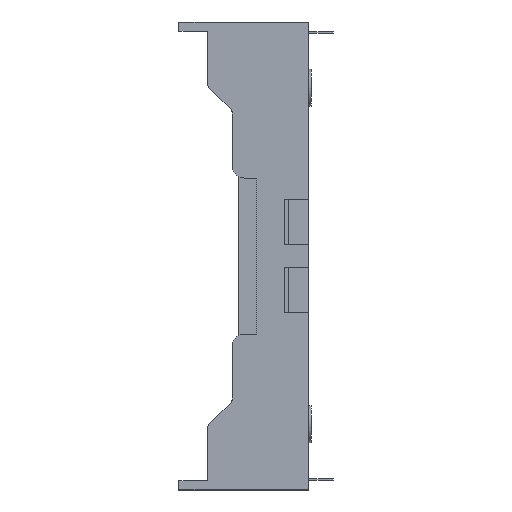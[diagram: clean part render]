
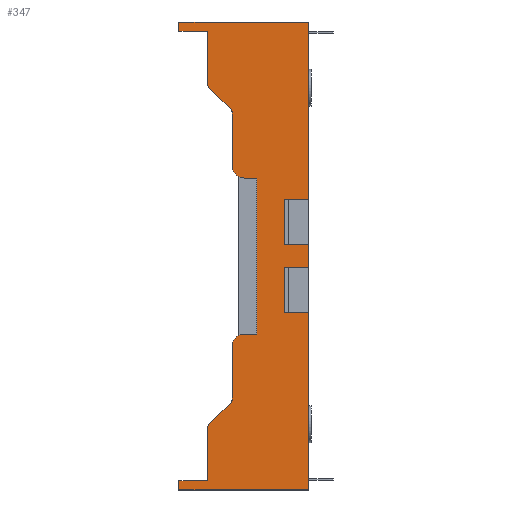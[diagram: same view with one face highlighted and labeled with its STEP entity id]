
A CAD part, left-side view. The second image highlights one B-rep face of the part: STEP entity #347.
In plain terms, the highlighted planar face has unit normal (-1, 0, 0).
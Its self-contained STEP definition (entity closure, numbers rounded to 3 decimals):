
#347=ADVANCED_FACE('',(#1875),#1877,.T.);
#1875=FACE_BOUND('',#1876,.T.);
#1876=EDGE_LOOP('',(#3636,#3637,#3638,#3639,#3640,#3641,#3642,#3643,#3644,#3645,
#3646,#3647,#3648,#3649,#3650,#3651,#3652,#3653,#3654,#3655,#3656,#3657,#3658,#3659,
#3660,#3661,#3662,#3663,#3664,#3665));
#1877=PLANE('',#1878);
#1878=AXIS2_PLACEMENT_3D('',#1879,#1880,#1881);
#1879=CARTESIAN_POINT('',(0.,16.5,0.));
#1880=DIRECTION('',(-1.,0.,0.));
#1881=DIRECTION('',(0.,-1.,0.));
#3636=ORIENTED_EDGE('',*,*,#4477,.T.);
#3637=ORIENTED_EDGE('',*,*,#4590,.T.);
#3638=ORIENTED_EDGE('',*,*,#4332,.T.);
#3639=ORIENTED_EDGE('',*,*,#4480,.T.);
#3640=ORIENTED_EDGE('',*,*,#4482,.T.);
#3641=ORIENTED_EDGE('',*,*,#4589,.T.);
#3642=ORIENTED_EDGE('',*,*,#4753,.T.);
#3643=ORIENTED_EDGE('',*,*,#4778,.F.);
#3644=ORIENTED_EDGE('',*,*,#4755,.F.);
#3645=ORIENTED_EDGE('',*,*,#4795,.F.);
#3646=ORIENTED_EDGE('',*,*,#4796,.T.);
#3647=ORIENTED_EDGE('',*,*,#4797,.T.);
#3648=ORIENTED_EDGE('',*,*,#4798,.T.);
#3649=ORIENTED_EDGE('',*,*,#4799,.T.);
#3650=ORIENTED_EDGE('',*,*,#4800,.T.);
#3651=ORIENTED_EDGE('',*,*,#4801,.T.);
#3652=ORIENTED_EDGE('',*,*,#4802,.T.);
#3653=ORIENTED_EDGE('',*,*,#4803,.T.);
#3654=ORIENTED_EDGE('',*,*,#4804,.T.);
#3655=ORIENTED_EDGE('',*,*,#4805,.T.);
#3656=ORIENTED_EDGE('',*,*,#4806,.T.);
#3657=ORIENTED_EDGE('',*,*,#4807,.T.);
#3658=ORIENTED_EDGE('',*,*,#4808,.T.);
#3659=ORIENTED_EDGE('',*,*,#4809,.F.);
#3660=ORIENTED_EDGE('',*,*,#4690,.T.);
#3661=ORIENTED_EDGE('',*,*,#4719,.F.);
#3662=ORIENTED_EDGE('',*,*,#4691,.F.);
#3663=ORIENTED_EDGE('',*,*,#4591,.T.);
#3664=ORIENTED_EDGE('',*,*,#4337,.T.);
#3665=ORIENTED_EDGE('',*,*,#4473,.T.);
#4332=EDGE_CURVE('',#5175,#5173,#5176,.T.);
#4337=EDGE_CURVE('',#5185,#5183,#5186,.T.);
#4473=EDGE_CURVE('',#5183,#5423,#5425,.T.);
#4477=EDGE_CURVE('',#5423,#5429,#5431,.T.);
#4480=EDGE_CURVE('',#5173,#5433,#5435,.T.);
#4482=EDGE_CURVE('',#5433,#5436,#5438,.T.);
#4589=EDGE_CURVE('',#5436,#5630,#5632,.T.);
#4590=EDGE_CURVE('',#5429,#5175,#5633,.T.);
#4591=EDGE_CURVE('',#5634,#5185,#5635,.T.);
#4690=EDGE_CURVE('',#5763,#5804,#5806,.T.);
#4691=EDGE_CURVE('',#5634,#5807,#5808,.T.);
#4719=EDGE_CURVE('',#5807,#5804,#5848,.T.);
#4753=EDGE_CURVE('',#5630,#5897,#5899,.T.);
#4755=EDGE_CURVE('',#5901,#5903,#5904,.T.);
#4778=EDGE_CURVE('',#5903,#5897,#5944,.T.);
#4795=EDGE_CURVE('',#5973,#5901,#5974,.T.);
#4796=EDGE_CURVE('',#5973,#5975,#5976,.T.);
#4797=EDGE_CURVE('',#5975,#5977,#5978,.T.);
#4798=EDGE_CURVE('',#5977,#5979,#5980,.T.);
#4799=EDGE_CURVE('',#5979,#5981,#5982,.T.);
#4800=EDGE_CURVE('',#5981,#5983,#5984,.T.);
#4801=EDGE_CURVE('',#5983,#5985,#5986,.T.);
#4802=EDGE_CURVE('',#5985,#5987,#5988,.T.);
#4803=EDGE_CURVE('',#5987,#5989,#5990,.T.);
#4804=EDGE_CURVE('',#5989,#5991,#5992,.T.);
#4805=EDGE_CURVE('',#5991,#5993,#5994,.T.);
#4806=EDGE_CURVE('',#5993,#5995,#5996,.T.);
#4807=EDGE_CURVE('',#5995,#5997,#5998,.T.);
#4808=EDGE_CURVE('',#5997,#5999,#6000,.T.);
#4809=EDGE_CURVE('',#5763,#5999,#6001,.T.);
#5173=VERTEX_POINT('',#6666);
#5175=VERTEX_POINT('',#6670);
#5176=LINE('',#6671,#6672);
#5183=VERTEX_POINT('',#6687);
#5185=VERTEX_POINT('',#6691);
#5186=LINE('',#6692,#6693);
#5423=VERTEX_POINT('',#7229);
#5425=LINE('',#7233,#7234);
#5429=VERTEX_POINT('',#7243);
#5431=LINE('',#7247,#7248);
#5433=VERTEX_POINT('',#7253);
#5435=LINE('',#7257,#7258);
#5436=VERTEX_POINT('',#7260);
#5438=LINE('',#7264,#7265);
#5630=VERTEX_POINT('',#7682);
#5632=LINE('',#7686,#7687);
#5633=LINE('',#7689,#7690);
#5634=VERTEX_POINT('',#7692);
#5635=LINE('',#7693,#7694);
#5763=VERTEX_POINT('',#7989);
#5804=VERTEX_POINT('',#8074);
#5806=LINE('',#8078,#8079);
#5807=VERTEX_POINT('',#8081);
#5808=LINE('',#8082,#8083);
#5848=LINE('',#8178,#8179);
#5897=VERTEX_POINT('',#8293);
#5899=LINE('',#8297,#8298);
#5901=VERTEX_POINT('',#8301);
#5903=VERTEX_POINT('',#8305);
#5904=LINE('',#8306,#8307);
#5944=LINE('',#8392,#8393);
#5973=VERTEX_POINT('',#8455);
#5974=LINE('',#8456,#8457);
#5975=VERTEX_POINT('',#8459);
#5976=CIRCLE('',#8460,0.5);
#5977=VERTEX_POINT('',#8464);
#5978=LINE('',#8465,#8466);
#5979=VERTEX_POINT('',#8468);
#5980=CIRCLE('',#8469,0.5);
#5981=VERTEX_POINT('',#8473);
#5982=LINE('',#8474,#8475);
#5983=VERTEX_POINT('',#8477);
#5984=CIRCLE('',#8478,2.);
#5985=VERTEX_POINT('',#8482);
#5986=LINE('',#8483,#8484);
#5987=VERTEX_POINT('',#8486);
#5988=LINE('',#8487,#8488);
#5989=VERTEX_POINT('',#8490);
#5990=LINE('',#8491,#8492);
#5991=VERTEX_POINT('',#8494);
#5992=CIRCLE('',#8495,2.);
#5993=VERTEX_POINT('',#8499);
#5994=LINE('',#8500,#8501);
#5995=VERTEX_POINT('',#8503);
#5996=CIRCLE('',#8504,0.5);
#5997=VERTEX_POINT('',#8508);
#5998=LINE('',#8509,#8510);
#5999=VERTEX_POINT('',#8512);
#6000=CIRCLE('',#8513,0.5);
#6001=LINE('',#8517,#8518);
#6666=CARTESIAN_POINT('',(0.,4.,38.65));
#6670=CARTESIAN_POINT('',(0.,0.,38.65));
#6671=CARTESIAN_POINT('',(0.,0.,38.65));
#6672=VECTOR('',#6673,1.);
#6673=DIRECTION('',(0.,1.,0.));
#6687=CARTESIAN_POINT('',(0.,4.,27.45));
#6691=CARTESIAN_POINT('',(0.,0.,27.45));
#6692=CARTESIAN_POINT('',(0.,0.,27.45));
#6693=VECTOR('',#6694,1.);
#6694=DIRECTION('',(0.,1.,0.));
#7229=CARTESIAN_POINT('',(0.,4.,34.85));
#7233=CARTESIAN_POINT('',(0.,4.,27.45));
#7234=VECTOR('',#7235,1.);
#7235=DIRECTION('',(0.,0.,1.));
#7243=CARTESIAN_POINT('',(0.,0.,34.85));
#7247=CARTESIAN_POINT('',(0.,4.,34.85));
#7248=VECTOR('',#7249,1.);
#7249=DIRECTION('',(0.,-1.,0.));
#7253=CARTESIAN_POINT('',(0.,4.,46.05));
#7257=CARTESIAN_POINT('',(0.,4.,38.65));
#7258=VECTOR('',#7259,1.);
#7259=DIRECTION('',(0.,0.,1.));
#7260=CARTESIAN_POINT('',(0.,0.,46.05));
#7264=CARTESIAN_POINT('',(0.,4.,46.05));
#7265=VECTOR('',#7266,1.);
#7266=DIRECTION('',(0.,-1.,0.));
#7682=CARTESIAN_POINT('',(0.,0.,75.));
#7686=CARTESIAN_POINT('',(0.,0.,46.05));
#7687=VECTOR('',#7688,1.);
#7688=DIRECTION('',(0.,0.,1.));
#7689=CARTESIAN_POINT('',(0.,0.,34.85));
#7690=VECTOR('',#7691,1.);
#7691=DIRECTION('',(0.,0.,1.));
#7692=CARTESIAN_POINT('',(0.,0.,-1.5));
#7693=CARTESIAN_POINT('',(0.,0.,-1.5));
#7694=VECTOR('',#7695,1.);
#7695=DIRECTION('',(0.,0.,1.));
#7989=CARTESIAN_POINT('',(0.,16.5,0.));
#8074=CARTESIAN_POINT('',(0.,21.2,0.));
#8078=CARTESIAN_POINT('',(0.,16.5,0.));
#8079=VECTOR('',#8080,1.);
#8080=DIRECTION('',(0.,1.,0.));
#8081=CARTESIAN_POINT('',(0.,21.2,-1.5));
#8082=CARTESIAN_POINT('',(0.,0.,-1.5));
#8083=VECTOR('',#8084,1.);
#8084=DIRECTION('',(0.,1.,0.));
#8178=CARTESIAN_POINT('',(0.,21.2,-1.5));
#8179=VECTOR('',#8180,1.);
#8180=DIRECTION('',(0.,0.,1.));
#8293=CARTESIAN_POINT('',(0.,21.2,75.));
#8297=CARTESIAN_POINT('',(0.,0.,75.));
#8298=VECTOR('',#8299,1.);
#8299=DIRECTION('',(0.,1.,0.));
#8301=CARTESIAN_POINT('',(0.,16.5,73.5));
#8305=CARTESIAN_POINT('',(0.,21.2,73.5));
#8306=CARTESIAN_POINT('',(0.,16.5,73.5));
#8307=VECTOR('',#8308,1.);
#8308=DIRECTION('',(0.,1.,0.));
#8392=CARTESIAN_POINT('',(0.,21.2,73.5));
#8393=VECTOR('',#8394,1.);
#8394=DIRECTION('',(0.,0.,1.));
#8455=CARTESIAN_POINT('',(0.,16.5,64.707));
#8456=CARTESIAN_POINT('',(0.,16.5,64.707));
#8457=VECTOR('',#8458,1.);
#8458=DIRECTION('',(0.,0.,1.));
#8459=CARTESIAN_POINT('',(0.,16.354,64.354));
#8460=AXIS2_PLACEMENT_3D('',#8461,#8462,#8463);
#8461=CARTESIAN_POINT('',(0.,16.,64.707));
#8462=DIRECTION('',(-1.,0.,0.));
#8463=DIRECTION('',(0.,1.,0.));
#8464=CARTESIAN_POINT('',(0.,12.646,60.646));
#8465=CARTESIAN_POINT('',(0.,16.354,64.354));
#8466=VECTOR('',#8467,1.);
#8467=DIRECTION('',(0.,-0.707,-0.707));
#8468=CARTESIAN_POINT('',(0.,12.5,60.293));
#8469=AXIS2_PLACEMENT_3D('',#8470,#8471,#8472);
#8470=CARTESIAN_POINT('',(0.,13.,60.293));
#8471=DIRECTION('',(1.,0.,0.));
#8472=DIRECTION('',(0.,-0.707,0.707));
#8473=CARTESIAN_POINT('',(0.,12.5,51.5));
#8474=CARTESIAN_POINT('',(0.,12.5,60.293));
#8475=VECTOR('',#8476,1.);
#8476=DIRECTION('',(0.,0.,-1.));
#8477=CARTESIAN_POINT('',(0.,10.5,49.5));
#8478=AXIS2_PLACEMENT_3D('',#8479,#8480,#8481);
#8479=CARTESIAN_POINT('',(0.,10.5,51.5));
#8480=DIRECTION('',(-1.,0.,0.));
#8481=DIRECTION('',(0.,1.,0.));
#8482=CARTESIAN_POINT('',(0.,8.5,49.5));
#8483=CARTESIAN_POINT('',(0.,10.5,49.5));
#8484=VECTOR('',#8485,1.);
#8485=DIRECTION('',(0.,-1.,0.));
#8486=CARTESIAN_POINT('',(0.,8.5,24.));
#8487=CARTESIAN_POINT('',(0.,8.5,49.5));
#8488=VECTOR('',#8489,1.);
#8489=DIRECTION('',(0.,0.,-1.));
#8490=CARTESIAN_POINT('',(0.,10.5,24.));
#8491=CARTESIAN_POINT('',(0.,8.5,24.));
#8492=VECTOR('',#8493,1.);
#8493=DIRECTION('',(0.,1.,0.));
#8494=CARTESIAN_POINT('',(0.,12.5,22.));
#8495=AXIS2_PLACEMENT_3D('',#8496,#8497,#8498);
#8496=CARTESIAN_POINT('',(0.,10.5,22.));
#8497=DIRECTION('',(-1.,0.,0.));
#8498=DIRECTION('',(0.,0.,1.));
#8499=CARTESIAN_POINT('',(0.,12.5,13.207));
#8500=CARTESIAN_POINT('',(0.,12.5,22.));
#8501=VECTOR('',#8502,1.);
#8502=DIRECTION('',(0.,0.,-1.));
#8503=CARTESIAN_POINT('',(0.,12.646,12.854));
#8504=AXIS2_PLACEMENT_3D('',#8505,#8506,#8507);
#8505=CARTESIAN_POINT('',(0.,13.,13.207));
#8506=DIRECTION('',(1.,0.,0.));
#8507=DIRECTION('',(0.,-1.,0.));
#8508=CARTESIAN_POINT('',(0.,16.354,9.146));
#8509=CARTESIAN_POINT('',(0.,12.646,12.854));
#8510=VECTOR('',#8511,1.);
#8511=DIRECTION('',(0.,0.707,-0.707));
#8512=CARTESIAN_POINT('',(0.,16.5,8.793));
#8513=AXIS2_PLACEMENT_3D('',#8514,#8515,#8516);
#8514=CARTESIAN_POINT('',(0.,16.,8.793));
#8515=DIRECTION('',(-1.,0.,0.));
#8516=DIRECTION('',(0.,0.707,0.707));
#8517=CARTESIAN_POINT('',(0.,16.5,0.));
#8518=VECTOR('',#8519,1.);
#8519=DIRECTION('',(0.,0.,1.));
